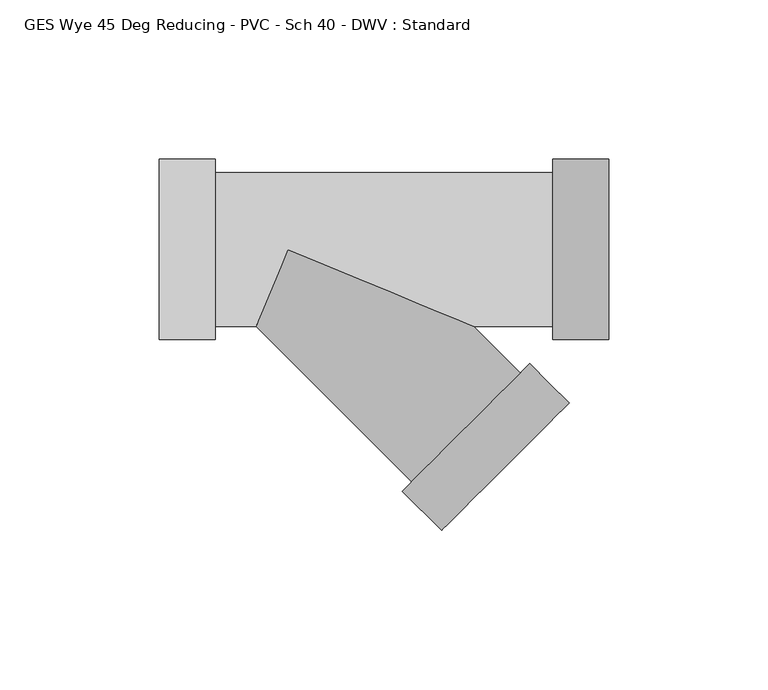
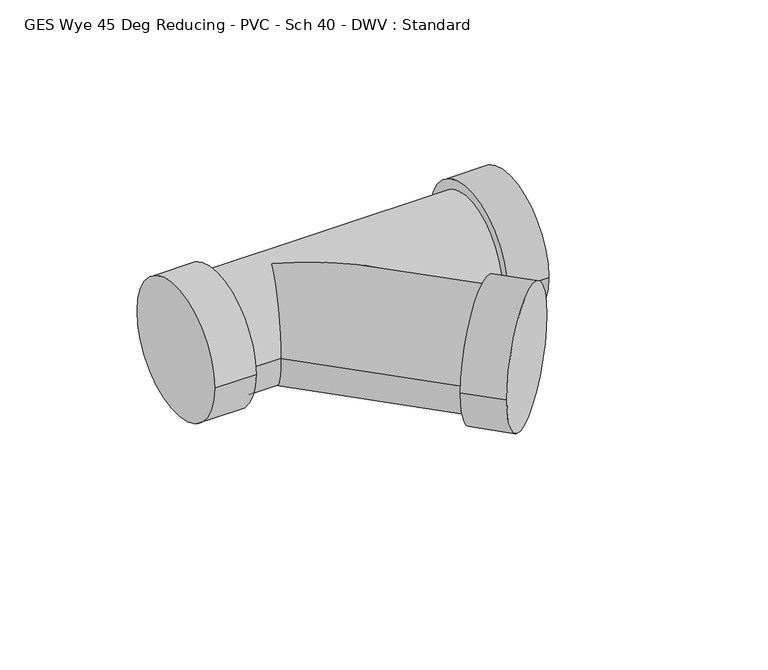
"""IFC4 building model written with IfcOpenShell, lengths in millimetres: pipe fitting geometry, GES Wye 45 Deg Reducing - PVC - Sch 40 - DWV : Standard."""

from ifc_helpers import new_model, si_unit, frame, origin, place, context, project, spatial, circle_curve, ellipse_curve, source, transform, mapped, element, save
from ifc_brep_helpers import plane_surface, cylinder_surface, advanced_brep


def ges_wye_45_deg_reducing_pvc_sch_40_dwv_standard_6e5b498b(model_context):
    return source(origin(), model_context, "Body", "AdvancedBrep", [
        advanced_brep(
        [(-22.8322187, 28.2829, 0.0), (-22.8322187, -28.2829, 0.0), (-22.8322187, 24.13, 0.0), (-22.8322187, -24.13, 0.0), (-40.2820187, 28.2829, 0.0), (-40.2820187, -28.2829, 0.0), (83.0659375, -28.2829, 0.0), (83.0659375, 28.2829, 0.0), (83.0659375, -24.13, 0.0), (83.0659375, 24.13, 0.0), (100.5157375, -28.2829, 0.0), (100.5157375, 28.2829, 0.0), (58.256573, -24.13, 0.0), (0.0, 0.0, -24.13), (-9.9946988, -24.13, 0.0), (0.0, 0.0, 24.13), (38.7708649, -72.8936699, 0.0), (72.8951755, -38.7680341, 0.0), (35.8343781, -75.8302707, 0.0), (75.8316622, -35.8314333, 0.0), (48.1734896, -88.168903, 0.0), (88.1707737, -48.1700656, 0.0)],
        [
            (0, 1, circle_curve(frame((-22.8322187, 0.0, 0.0), z_axis=(1.0, 0.0, 0.0), x_axis=(0.0, -1.0, 0.0)), 28.2829)),
            (1, 0, circle_curve(frame((-22.8322187, 0.0, 0.0), z_axis=(1.0, 0.0, 0.0), x_axis=(0.0, -1.0, 0.0)), 28.2829)),
            (2, 3, circle_curve(frame((-22.8322187, 0.0, 0.0), z_axis=(-1.0, 0.0, 0.0), x_axis=(0.0, 0.0, -1.0)), 24.13)),
            (3, 2, circle_curve(frame((-22.8322187, 0.0, 0.0), z_axis=(-1.0, 0.0, 0.0), x_axis=(0.0, 0.0, 1.0)), 24.13)),
            (4, 5, circle_curve(frame((-40.2820187, 0.0, 0.0), z_axis=(-1.0, 0.0, 0.0), x_axis=(0.0, -1.0, 0.0)), 28.2829)),
            (5, 4, circle_curve(frame((-40.2820187, 0.0, 0.0), z_axis=(-1.0, 0.0, 0.0), x_axis=(0.0, -1.0, 0.0)), 28.2829)),
            (0, 4),
            (5, 1),
            (6, 7, circle_curve(frame((83.0659375, 0.0, 0.0), z_axis=(-1.0, 0.0, 0.0), x_axis=(0.0, 1.0, 0.0)), 28.2829)),
            (7, 6, circle_curve(frame((83.0659375, 0.0, 0.0), z_axis=(-1.0, 0.0, 0.0), x_axis=(0.0, 1.0, 0.0)), 28.2829)),
            (8, 9, circle_curve(frame((83.0659375, 0.0, 0.0), z_axis=(1.0, 0.0, 0.0), x_axis=(0.0, 0.0, -1.0)), 24.13)),
            (9, 8, circle_curve(frame((83.0659375, 0.0, 0.0), z_axis=(1.0, 0.0, 0.0), x_axis=(0.0, 0.0, 1.0)), 24.13)),
            (10, 11, circle_curve(frame((100.5157375, 0.0, 0.0), z_axis=(1.0, 0.0, 0.0), x_axis=(0.0, 1.0, 0.0)), 28.2829)),
            (11, 10, circle_curve(frame((100.5157375, 0.0, 0.0), z_axis=(1.0, 0.0, 0.0), x_axis=(0.0, 1.0, 0.0)), 28.2829)),
            (6, 10),
            (11, 7),
            (2, 9),
            (8, 12),
            (12, 13, ellipse_curve(frame((0.0, 0.0, 0.0), z_axis=(0.38267446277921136, 0.9238832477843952, 0.0), x_axis=(0.923883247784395, -0.3826744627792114, 0.0)), 63.0562066, 24.13)),
            (13, 14, ellipse_curve(frame((0.0, 0.0, 0.0), z_axis=(-0.923883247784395, 0.38267446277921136, 0.0), x_axis=(0.3826744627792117, 0.9238832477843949, 0.0)), 26.1180188, 24.13)),
            (14, 3),
            (14, 15, ellipse_curve(frame((0.0, 0.0, 0.0), z_axis=(-0.923883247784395, 0.38267446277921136, 0.0), x_axis=(0.3826744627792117, 0.9238832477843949, 0.0)), 26.1180188, 24.13)),
            (15, 12, ellipse_curve(frame((0.0, 0.0, 0.0), z_axis=(0.38267446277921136, 0.9238832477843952, 0.0), x_axis=(0.923883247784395, -0.3826744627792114, 0.0)), 63.0562066, 24.13)),
            (14, 16),
            (16, 17, circle_curve(frame((55.8330202, -55.830852, 0.0), z_axis=(-0.707120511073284, 0.7070930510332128, 0.0), x_axis=(0.7070930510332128, 0.707120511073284, 0.0)), 24.13)),
            (17, 12),
            (17, 16, circle_curve(frame((55.8330202, -55.830852, 0.0), z_axis=(-0.707120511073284, 0.7070930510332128, 0.0), x_axis=(0.7070930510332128, 0.707120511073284, 0.0)), 24.13)),
            (18, 19, circle_curve(frame((55.8330202, -55.830852, 0.0), z_axis=(-0.707120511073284, 0.7070930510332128, 0.0), x_axis=(0.7070930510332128, 0.707120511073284, 0.0)), 28.2829)),
            (19, 18, circle_curve(frame((55.8330202, -55.830852, 0.0), z_axis=(-0.707120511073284, 0.7070930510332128, 0.0), x_axis=(0.7070930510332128, 0.707120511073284, 0.0)), 28.2829)),
            (20, 21, circle_curve(frame((68.1721317, -68.1694843, 0.0), z_axis=(0.707120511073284, -0.7070930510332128, 0.0), x_axis=(0.7070930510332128, 0.707120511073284, 0.0)), 28.2829)),
            (21, 20, circle_curve(frame((68.1721317, -68.1694843, 0.0), z_axis=(0.707120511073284, -0.7070930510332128, 0.0), x_axis=(0.7070930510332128, 0.707120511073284, 0.0)), 28.2829)),
            (18, 20),
            (21, 19),
        ],
        [
            plane_surface(frame((-22.8322187, 0.0, 0.0), z_axis=(1.0, 0.0, 0.0), x_axis=(0.0, 0.0, 1.0))),
            plane_surface(frame((-40.2820187, 0.0, 0.0), z_axis=(-1.0, 0.0, 0.0), x_axis=(0.0, 0.0, 1.0))),
            cylinder_surface(frame((-22.8322187, 0.0, 0.0), z_axis=(1.0, 0.0, 0.0), x_axis=(0.0, -1.0, 0.0)), 28.2829),
            plane_surface(frame((83.0659375, 0.0, 0.0), z_axis=(-1.0, 0.0, 0.0), x_axis=(0.0, 0.0, 1.0))),
            plane_surface(frame((100.5157375, 0.0, 0.0), z_axis=(1.0, 0.0, 0.0), x_axis=(0.0, 0.0, 1.0))),
            cylinder_surface(frame((83.0659375, 0.0, 0.0), z_axis=(-1.0, 0.0, 0.0), x_axis=(0.0, 1.0, 0.0)), 28.2829),
            cylinder_surface(frame((-22.8322187, 0.0, 0.0), z_axis=(1.0, 0.0, 0.0), x_axis=(0.0, 0.0, -1.0)), 24.13),
            cylinder_surface(frame((-22.8322187, 0.0, 0.0), z_axis=(1.0, 0.0, 0.0), x_axis=(0.0, 0.0, 1.0)), 24.13),
            cylinder_surface(frame((0.0, 0.0, 0.0), z_axis=(-0.707120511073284, 0.7070930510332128, 0.0), x_axis=(0.7070930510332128, 0.707120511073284, 0.0)), 24.13),
            plane_surface(frame((55.8330202, -55.830852, 0.0), z_axis=(-0.7071205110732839, 0.7070930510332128, 0.0), x_axis=(0.0, 0.0, 1.0))),
            plane_surface(frame((68.1721317, -68.1694843, 0.0), z_axis=(0.7071205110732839, -0.7070930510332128, 0.0), x_axis=(0.0, 0.0, 1.0))),
            cylinder_surface(frame((55.8330202, -55.830852, 0.0), z_axis=(-0.707120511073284, 0.7070930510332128, 0.0), x_axis=(0.7070930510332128, 0.707120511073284, 0.0)), 28.2829),
        ],
        [
            (0, [[1, 2], [3, 4]]),
            (1, [[5, 6]]),
            (2, [[-1, 7, -6, 8]]),
            (2, [[-2, -8, -5, -7]]),
            (3, [[9, 10], [11, 12]]),
            (4, [[13, 14]]),
            (5, [[-9, 15, -14, 16]]),
            (5, [[-10, -16, -13, -15]]),
            (6, [[17, -11, 18, 19, 20, 21, -3]]),
            (7, [[-17, -4, -21, 22, 23, -18, -12]]),
            (8, [[24, 25, 26, -23, -22]]),
            (8, [[-24, -20, -19, -26, 27]]),
            (9, [[28, 29], [-25, -27]]),
            (10, [[30, 31]]),
            (11, [[-28, 32, -31, 33]]),
            (11, [[-29, -33, -30, -32]]),
        ],
    ),
    ])


if __name__ == "__main__":
    model = new_model("IFC4")
    model_context = context("Model", 3, world=origin())
    ifc_project = project(units=[si_unit("LENGTHUNIT", "METRE", prefix="MILLI")], contexts=[model_context])
    site = spatial("IfcSite", under=ifc_project)
    building = spatial("IfcBuilding", under=site)
    placement = place(None, origin())
    ges_wye_45_deg_reducing_pvc_sch_40_dwv_standard_shape = ges_wye_45_deg_reducing_pvc_sch_40_dwv_standard_6e5b498b(model_context)
    element("IfcPipeFitting", 1, ObjectType="GES Wye 45 Deg Reducing - PVC - Sch 40 - DWV : Standard", at=placement, inside=building, context=model_context, shape_type="MappedRepresentation", body=[
        mapped(ges_wye_45_deg_reducing_pvc_sch_40_dwv_standard_shape, transform((0.0, 0.0, 0.0), x_axis=(1.0, 0.0, 0.0), y_axis=(0.0, 1.0, 0.0), z_axis=(0.0, 0.0, 1.0))),
    ])
    save(model, "model.ifc")
